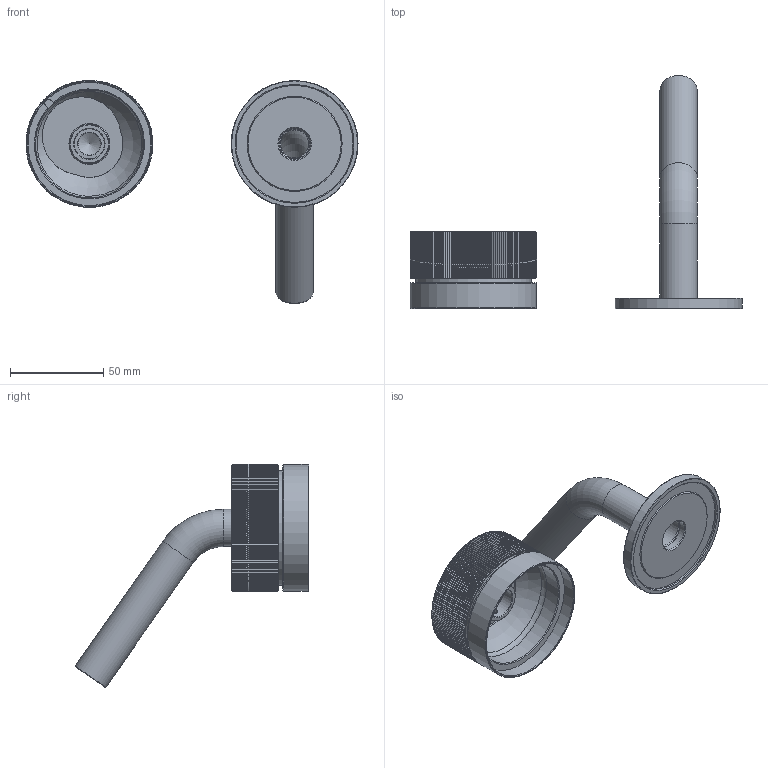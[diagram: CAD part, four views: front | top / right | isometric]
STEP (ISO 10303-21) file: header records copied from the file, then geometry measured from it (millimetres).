
FILE_DESCRIPTION(/* description */ ('Unknown'),/* implementation_level */ '2;1');
FILE_NAME(/* name */ 'RE003',/* time_stamp */ '2023-07-04T11:00:05+02:00',/* author */ ('Unknown'),/* organization */ ('Unknown'),/* preprocessor_version */ 'ST-DEVELOPER v18.102',/* originating_system */ 'Solid Edge',/* authorisation */ 'Unknown');
FILE_SCHEMA (('AUTOMOTIVE_DESIGN {1 0 10303 214 3 1 1}'));
Length unit declared in the file: millimetre
Products named in the file (13): RE003; RE003EXT_oa_0; RE013_oa_1; RE013-03; RE013-01; 44.3256.450; 44.3256.450-1; 44.3256.450-2; 44.3256.450-3; 44.3256.450-4; RE006EXT_oa_2; RE006-03; RE006-04
Assembly tree (12 placements, depth 5):
  RE003
    RE003EXT_oa_0
      RE013_oa_1
        RE013-03
        RE013-01
        44.3256.450
          44.3256.450-1
          44.3256.450-2
          44.3256.450-3
          44.3256.450-4
      RE006EXT_oa_2
        RE006-03
        RE006-04
Bounding box: 178 x 125.18 x 119.58 mm (x, y, z)
Volume: 65329.5 mm3; surface area: 61116.9 mm2
Topology: 8 solids, 8 shells, 1171 faces, 2644 edges, 1510 vertices
Faces by surface type: plane 501, cone 399, cylinder 230, torus 21, bspline 18, sphere 2
Full cylindrical faces by diameter (mm): 3.242 x2, 5 x2, 6 x1, 11.027 x2, 12 x1, 12.159 x1, 12.196 x1, 12.45 x1, 13.464 x1, 14.577 x1, 15 x2, 15.033 x1, 15.218 x1, 15.229 x1, 15.417 x2, 16 x1, 16.2 x1, 16.3 x1, 16.5 x2, 16.75 x1, 16.917 x1, 18 x1, 20 x2, 21 x1, 58 x1, 62 x1, 62.7 x1, 65 x1, 66 x1, 68 x2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
Entity records: 40568 total; most frequent: CARTESIAN_POINT 8038, ORIENTED_EDGE 5030, DIRECTION 5009, EDGE_CURVE 2515, AXIS2_PLACEMENT_3D 2109, VERTEX_POINT 1479, FACE_BOUND 1302, EDGE_LOOP 1298
